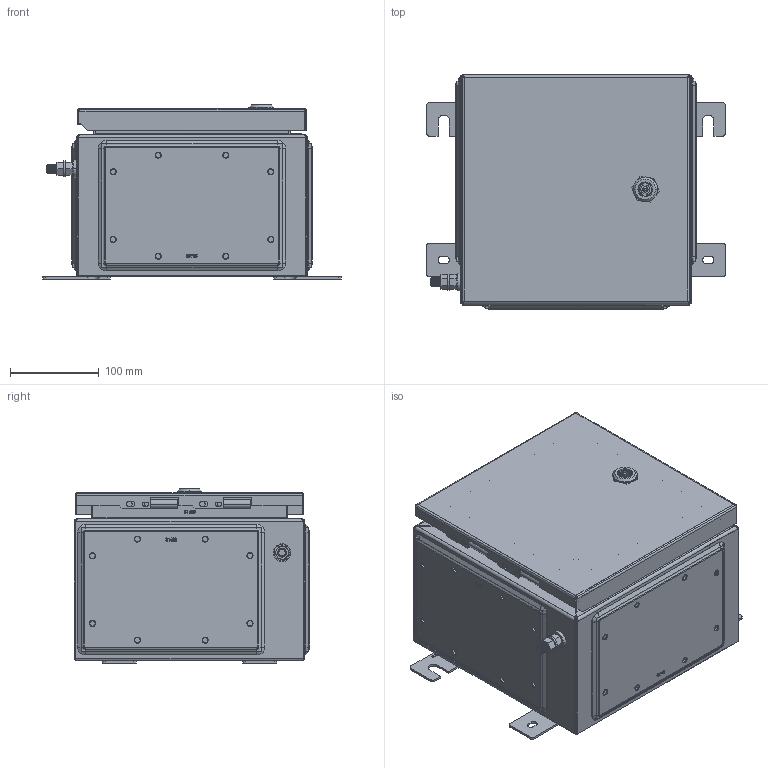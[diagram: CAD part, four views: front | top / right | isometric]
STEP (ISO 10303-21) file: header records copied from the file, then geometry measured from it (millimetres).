
FILE_DESCRIPTION (( 'STEP AP203' ), '1' );
FILE_NAME ('atex262616ss63.STEP', '2018-08-27T19:29:41', ( '' ), ( '' ), 'SwSTEP 2.0', 'SolidWorks 2016', '' );
FILE_SCHEMA (( 'CONFIG_CONTROL_DESIGN' ));
Length unit declared in the file: millimetre
Products named in the file (33): 89166146; 64291002; 87922879; atex262616ss63; 87922897; 99405181; 87920825; 87928187; 89166186; 87956872; 99401226_After Weld; 87922792; 89166166; 87956875; 89166037; 87922766; 87920823; 87960062; 89166155; 87923033; 87922977; 31122001_31122001; 87959736; 23271002_Config-PreWeld DRW; 87922972_87922972; 99406296; 87956874; 87922974; 87926436; 87922980; 87959953; 89165930; 89076731
Assembly tree (70 placements, depth 5):
  atex262616ss63
    89165930
      87928187
      87922792
      87922766
      87923033  x4
      23271002_Config-PreWeld DRW  x4
      87922974  x24
    89166146
      89166037
        87922879
        87920825  x2
        99401226_After Weld
      89166155
      87922980
        87959953
          87959736
          87956874
        87960062
          64291002
          99405181
          87956872
          87956875
        31122001_31122001
        99406296
    89166166  x3
      87922897
      89166186
    87920823  x2
    89076731
      87922977
      87922972_87922972  x2
      87926436
    87926436  x2
    87922972_87922972  x2
Bounding box: 336.19 x 265.51 x 196.18 mm (x, y, z)
Volume: 1054660.1 mm3; surface area: 1077428.3 mm2
Topology: 63 solids, 65 shells, 3155 faces, 7541 edges, 4689 vertices
Faces by surface type: plane 1126, cylinder 896, bspline 592, cone 461, torus 68, sphere 12
Entity records: 72981 total; most frequent: CARTESIAN_POINT 27971, ORIENTED_EDGE 8754, DIRECTION 7637, EDGE_CURVE 4379, VERTEX_POINT 2695, AXIS2_PLACEMENT_3D 2560, VECTOR 2517, LINE 2517
